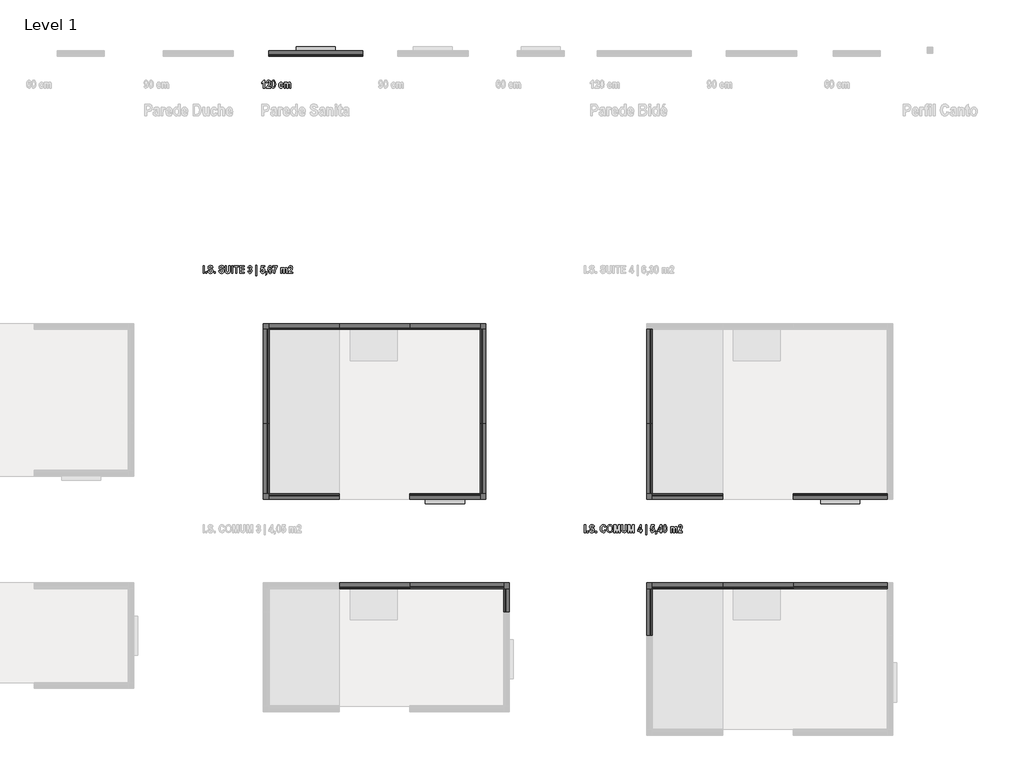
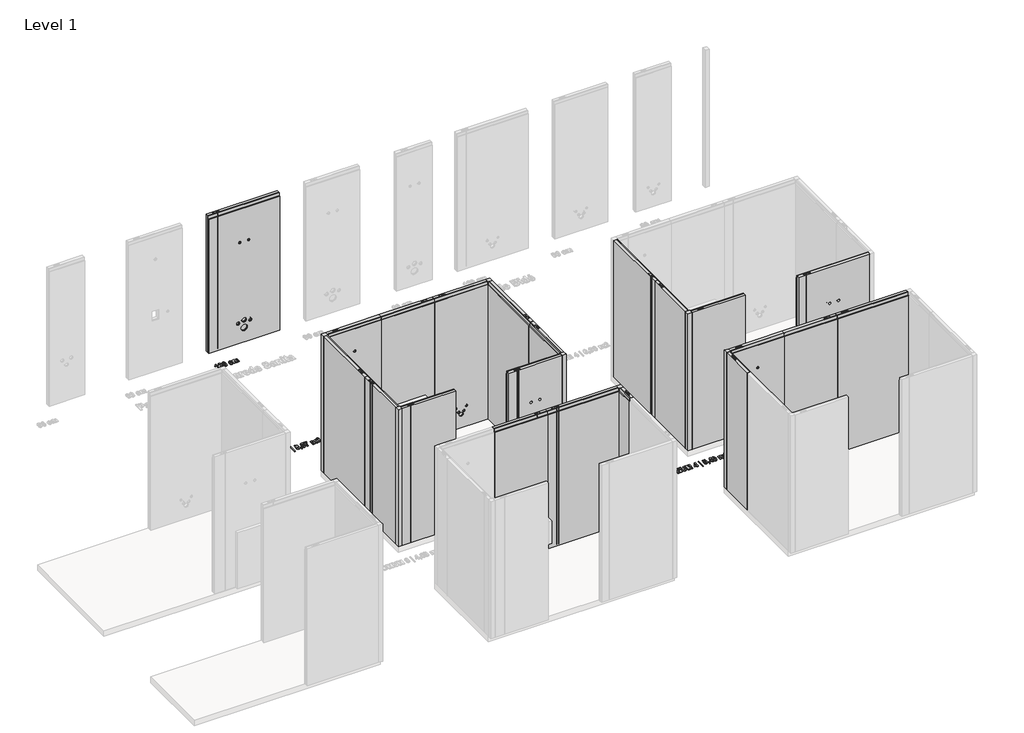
# One storey, part 8 of 10: 31 proxies.
"""IFC4 building model written with IfcOpenShell, lengths in millimetres."""

from ifc_helpers import new_model, si_unit, origin, origin_with_axes, place, context, project, spatial, polyline, outline, extrude, transform, mapped, element, save
from components import generic_models_aefc3c11, generic_models_87fa6935, generic_models_6c692219, generic_models_8d7f3108, generic_models_14bfae6f, generic_models_87e237a0, generic_models_d659e27f, generic_models_43d2ec2c, generic_models_7c24a650, generic_models_bfa109d8, generic_models_1475a357, generic_models_0c33305c, generic_models_edb91717

model = new_model("IFC4")

# Units and contexts
model_context = context("Model", 3, world=origin())
ifc_project = project(units=[si_unit("LENGTHUNIT", "METRE", prefix="MILLI")], contexts=[model_context])

# Site, building, storey
site = spatial("IfcSite", under=ifc_project)
building = spatial("IfcBuilding", under=site)
storey = spatial("IfcBuildingStorey", under=building, Name="Level 1", Elevation=0.0)

# Proxies
placement = place(None, origin())
generic_models_shape = generic_models_aefc3c11(model_context)
element("IfcBuildingElementProxy", 1, Name="ParedeGeral_Blufab : Parede Geral - Largura 90 cm", ObjectType="ParedeGeral_Blufab : Parede Geral - Largura 90 cm", at=placement, inside=storey, context=model_context, shape_type="MappedRepresentation", body=[
    mapped(generic_models_shape, transform((3603.6595429, 3227.3727477, 0.0), x_axis=(0.0, -1.0, 0.0), y_axis=(1.0, 0.0, 0.0), z_axis=(0.0, 0.0, 1.0))),
])
generic_models_2_shape = generic_models_87fa6935(model_context)
element("IfcBuildingElementProxy", 2, Name="ParedeGeral_Blufab : Parede Geral - Largura 120 cm", ObjectType="ParedeGeral_Blufab : Parede Geral - Largura 120 cm", at=placement, inside=storey, context=model_context, shape_type="MappedRepresentation", body=[
    mapped(generic_models_2_shape, transform((903.6595429, 3227.3727477, 0.0), x_axis=(0.0, 1.0, 0.0), y_axis=(-1.0, 0.0, 0.0), z_axis=(0.0, 0.0, 1.0))),
])
element("IfcBuildingElementProxy", 3, Name="ParedeGeral_Blufab : Parede Geral - Largura 120 cm", ObjectType="ParedeGeral_Blufab : Parede Geral - Largura 120 cm", at=placement, inside=storey, context=model_context, shape_type="MappedRepresentation", body=[
    mapped(generic_models_2_shape, transform((5803.6595429, 3227.3727477, 0.0), x_axis=(0.0, 1.0, 0.0), y_axis=(-1.0, 0.0, 0.0), z_axis=(0.0, 0.0, 1.0))),
])
element("IfcBuildingElementProxy", 4, Name="ParedeGeral_Blufab : Parede Geral - Largura 120 cm", ObjectType="ParedeGeral_Blufab : Parede Geral - Largura 120 cm", at=placement, inside=storey, context=model_context, shape_type="MappedRepresentation", body=[
    mapped(generic_models_2_shape, transform((2703.6595429, 1114.1909428, 0.0), x_axis=(1.0, 0.0, 0.0), y_axis=(0.0, 1.0, 0.0), z_axis=(0.0, 0.0, 1.0))),
])
element("IfcBuildingElementProxy", 5, Name="ParedeGeral_Blufab : Parede Geral - Largura 120 cm", ObjectType="ParedeGeral_Blufab : Parede Geral - Largura 120 cm", at=placement, inside=storey, context=model_context, shape_type="MappedRepresentation", body=[
    mapped(generic_models_2_shape, transform((7603.6595429, 1114.1909428, 0.0), x_axis=(1.0, 0.0, 0.0), y_axis=(0.0, 1.0, 0.0), z_axis=(0.0, 0.0, 1.0))),
])
generic_models_3_shape = generic_models_6c692219(model_context)
element("IfcBuildingElementProxy", 6, Name="ParedeSanita_Blufab : Parede Sanita- Largura 120 cm", ObjectType="ParedeSanita_Blufab : Parede Sanita- Largura 120 cm", at=placement, inside=storey, context=model_context, shape_type="MappedRepresentation", body=[
    mapped(generic_models_3_shape, transform((899.1272248, 7918.7563997, 0.0), x_axis=(1.0, 0.0, 0.0), y_axis=(0.0, 1.0, 0.0), z_axis=(0.0, 0.0, 1.0))),
])
generic_models_4_shape = generic_models_8d7f3108(model_context)
element("IfcBuildingElementProxy", 7, Name="ParedeDuche_Blufab : Parede Duche- Largura 90 cm", ObjectType="ParedeDuche_Blufab : Parede Duche- Largura 90 cm", at=placement, inside=storey, context=model_context, shape_type="MappedRepresentation", body=[
    mapped(generic_models_4_shape, transform((903.6595429, 4427.3727477, 0.0), x_axis=(1.0, 0.0, 0.0), y_axis=(0.0, 1.0, 0.0), z_axis=(0.0, 0.0, 1.0))),
])
element("IfcBuildingElementProxy", 8, Name="ParedeDuche_Blufab : Parede Duche- Largura 90 cm", ObjectType="ParedeDuche_Blufab : Parede Duche- Largura 90 cm", at=placement, inside=storey, context=model_context, shape_type="MappedRepresentation", body=[
    mapped(generic_models_4_shape, transform((5803.6595429, 1114.1909428, 0.0), x_axis=(1.0, 0.0, 0.0), y_axis=(0.0, 1.0, 0.0), z_axis=(0.0, 0.0, 1.0))),
])
generic_models_5_shape = generic_models_14bfae6f(model_context)
element("IfcBuildingElementProxy", 9, Name="ParedeBidé_Blufab : Parede Bidé - Largura 90 cm", ObjectType="ParedeBidé_Blufab : Parede Bidé - Largura 90 cm", at=placement, inside=storey, context=model_context, shape_type="MappedRepresentation", body=[
    mapped(generic_models_5_shape, transform((2703.6595429, 4427.3727477, 0.0), x_axis=(1.0, 0.0, 0.0), y_axis=(0.0, 1.0, 0.0), z_axis=(0.0, 0.0, 1.0))),
])
generic_models_6_shape = generic_models_87e237a0(model_context)
element("IfcBuildingElementProxy", 10, Name="PerfilCanto_Blufab : Parede Geral - Largura 60 cm", ObjectType="PerfilCanto_Blufab : Parede Geral - Largura 60 cm", at=placement, inside=storey, context=model_context, shape_type="MappedRepresentation", body=[
    mapped(generic_models_6_shape, transform((830.6595429, 4427.3727477, 0.0), x_axis=(1.0, 0.0, 0.0), y_axis=(0.0, 1.0, 0.0), z_axis=(0.0, 0.0, 1.0))),
])
element("IfcBuildingElementProxy", 11, Name="PerfilCanto_Blufab : Parede Geral - Largura 60 cm", ObjectType="PerfilCanto_Blufab : Parede Geral - Largura 60 cm", at=placement, inside=storey, context=model_context, shape_type="MappedRepresentation", body=[
    mapped(generic_models_6_shape, transform((830.6595429, 2254.3727477, 0.0), x_axis=(1.0, 0.0, 0.0), y_axis=(0.0, 1.0, 0.0), z_axis=(0.0, 0.0, 1.0))),
])
element("IfcBuildingElementProxy", 12, Name="PerfilCanto_Blufab : Parede Geral - Largura 60 cm", ObjectType="PerfilCanto_Blufab : Parede Geral - Largura 60 cm", at=placement, inside=storey, context=model_context, shape_type="MappedRepresentation", body=[
    mapped(generic_models_6_shape, transform((3603.6595429, 4427.3727477, 0.0), x_axis=(1.0, 0.0, 0.0), y_axis=(0.0, 1.0, 0.0), z_axis=(0.0, 0.0, 1.0))),
])
element("IfcBuildingElementProxy", 13, Name="PerfilCanto_Blufab : Parede Geral - Largura 60 cm", ObjectType="PerfilCanto_Blufab : Parede Geral - Largura 60 cm", at=placement, inside=storey, context=model_context, shape_type="MappedRepresentation", body=[
    mapped(generic_models_6_shape, transform((3603.6595429, 2254.3727477, 0.0), x_axis=(1.0, 0.0, 0.0), y_axis=(0.0, 1.0, 0.0), z_axis=(0.0, 0.0, 1.0))),
])
element("IfcBuildingElementProxy", 14, Name="PerfilCanto_Blufab : Parede Geral - Largura 60 cm", ObjectType="PerfilCanto_Blufab : Parede Geral - Largura 60 cm", at=placement, inside=storey, context=model_context, shape_type="MappedRepresentation", body=[
    mapped(generic_models_6_shape, transform((5730.6595429, 2254.3727477, 0.0), x_axis=(1.0, 0.0, 0.0), y_axis=(0.0, 1.0, 0.0), z_axis=(0.0, 0.0, 1.0))),
])
element("IfcBuildingElementProxy", 15, Name="PerfilCanto_Blufab : Parede Geral - Largura 60 cm", ObjectType="PerfilCanto_Blufab : Parede Geral - Largura 60 cm", at=placement, inside=storey, context=model_context, shape_type="MappedRepresentation", body=[
    mapped(generic_models_6_shape, transform((3903.6595429, 1114.1909428, 0.0), x_axis=(1.0, 0.0, 0.0), y_axis=(0.0, 1.0, 0.0), z_axis=(0.0, 0.0, 1.0))),
])
element("IfcBuildingElementProxy", 16, Name="PerfilCanto_Blufab : Parede Geral - Largura 60 cm", ObjectType="PerfilCanto_Blufab : Parede Geral - Largura 60 cm", at=placement, inside=storey, context=model_context, shape_type="MappedRepresentation", body=[
    mapped(generic_models_6_shape, transform((5730.6595429, 1114.1909428, 0.0), x_axis=(1.0, 0.0, 0.0), y_axis=(0.0, 1.0, 0.0), z_axis=(0.0, 0.0, 1.0))),
])
generic_models_7_shape = generic_models_d659e27f(model_context)
element("IfcBuildingElementProxy", 17, Name="ParedeLavatório_Blufab : Parede Lavatório - Largura 90 cm", ObjectType="ParedeLavatório_Blufab : Parede Lavatório - Largura 90 cm", at=placement, inside=storey, context=model_context, shape_type="MappedRepresentation", body=[
    mapped(generic_models_7_shape, transform((2703.6595429, 4427.3727477, 0.0), x_axis=(-1.0, 0.0, 0.0), y_axis=(0.0, -1.0, 0.0), z_axis=(0.0, 0.0, 1.0))),
])
element("IfcBuildingElementProxy", 18, Name="ParedeLavatório_Blufab : Parede Lavatório - Largura 90 cm", ObjectType="ParedeLavatório_Blufab : Parede Lavatório - Largura 90 cm", at=placement, inside=storey, context=model_context, shape_type="MappedRepresentation", body=[
    mapped(generic_models_7_shape, transform((2703.6595429, 1114.1909428, 0.0), x_axis=(-1.0, 0.0, 0.0), y_axis=(0.0, -1.0, 0.0), z_axis=(0.0, 0.0, 1.0))),
])
element("IfcBuildingElementProxy", 19, Name="ParedeLavatório_Blufab : Parede Lavatório - Largura 90 cm", ObjectType="ParedeLavatório_Blufab : Parede Lavatório - Largura 90 cm", at=placement, inside=storey, context=model_context, shape_type="MappedRepresentation", body=[
    mapped(generic_models_7_shape, transform((7603.6595429, 1114.1909428, 0.0), x_axis=(-1.0, 0.0, 0.0), y_axis=(0.0, -1.0, 0.0), z_axis=(0.0, 0.0, 1.0))),
])
generic_models_8_shape = generic_models_43d2ec2c(model_context)
element("IfcBuildingElementProxy", 20, Name="ParedeGeral_Blufab : Parede Geral - Largura 30 cm", ObjectType="ParedeGeral_Blufab : Parede Geral - Largura 30 cm", at=placement, inside=storey, context=model_context, shape_type="MappedRepresentation", body=[
    mapped(generic_models_8_shape, transform((3903.6595429, 1114.1909428, 0.0), x_axis=(0.0, -1.0, 0.0), y_axis=(1.0, 0.0, 0.0), z_axis=(0.0, 0.0, 1.0))),
])
generic_models_9_shape = generic_models_7c24a650(model_context)
element("IfcBuildingElementProxy", 21, Name="ParedeGeral_Blufab : Parede Geral - Largura 90 cm", ObjectType="ParedeGeral_Blufab : Parede Geral - Largura 90 cm", at=placement, inside=storey, context=model_context, shape_type="MappedRepresentation", body=[
    mapped(generic_models_9_shape, transform((903.6595429, 2327.3727477, 0.0), x_axis=(1.0, 0.0, 0.0), y_axis=(0.0, 1.0, 0.0), z_axis=(0.0, 0.0, 1.0))),
])
element("IfcBuildingElementProxy", 22, Name="ParedeGeral_Blufab : Parede Geral - Largura 90 cm", ObjectType="ParedeGeral_Blufab : Parede Geral - Largura 90 cm", at=placement, inside=storey, context=model_context, shape_type="MappedRepresentation", body=[
    mapped(generic_models_9_shape, transform((903.6595429, 3227.3727477, 0.0), x_axis=(0.0, -1.0, 0.0), y_axis=(1.0, 0.0, 0.0), z_axis=(0.0, 0.0, 1.0))),
])
element("IfcBuildingElementProxy", 23, Name="ParedeGeral_Blufab : Parede Geral - Largura 90 cm", ObjectType="ParedeGeral_Blufab : Parede Geral - Largura 90 cm", at=placement, inside=storey, context=model_context, shape_type="MappedRepresentation", body=[
    mapped(generic_models_9_shape, transform((5803.6595429, 2327.3727477, 0.0), x_axis=(1.0, 0.0, 0.0), y_axis=(0.0, 1.0, 0.0), z_axis=(0.0, 0.0, 1.0))),
])
element("IfcBuildingElementProxy", 24, Name="ParedeGeral_Blufab : Parede Geral - Largura 90 cm", ObjectType="ParedeGeral_Blufab : Parede Geral - Largura 90 cm", at=placement, inside=storey, context=model_context, shape_type="MappedRepresentation", body=[
    mapped(generic_models_9_shape, transform((5803.6595429, 3227.3727477, 0.0), x_axis=(0.0, -1.0, 0.0), y_axis=(1.0, 0.0, 0.0), z_axis=(0.0, 0.0, 1.0))),
])
generic_models_10_shape = generic_models_bfa109d8(model_context)
element("IfcBuildingElementProxy", 25, Name="ParedeGeral_Blufab : Parede Geral - Largura 120 cm", ObjectType="ParedeGeral_Blufab : Parede Geral - Largura 120 cm", at=placement, inside=storey, context=model_context, shape_type="MappedRepresentation", body=[
    mapped(generic_models_10_shape, transform((3603.6595429, 3227.3727477, 0.0), x_axis=(0.0, 1.0, 0.0), y_axis=(-1.0, 0.0, 0.0), z_axis=(0.0, 0.0, 1.0))),
])
generic_models_11_shape = generic_models_1475a357(model_context)
element("IfcBuildingElementProxy", 26, Name="ParedeGeral_Blufab : Parede Geral - Largura 60 cm", ObjectType="ParedeGeral_Blufab : Parede Geral - Largura 60 cm", at=placement, inside=storey, context=model_context, shape_type="MappedRepresentation", body=[
    mapped(generic_models_11_shape, transform((5803.6595429, 1114.1909428, 0.0), x_axis=(0.0, -1.0, 0.0), y_axis=(1.0, 0.0, 0.0), z_axis=(0.0, 0.0, 1.0))),
])
generic_models_12_shape = generic_models_0c33305c(model_context)
element("IfcBuildingElementProxy", 27, Name="ParedeSanita_Blufab : Parede Sanita - Largura 90 cm", ObjectType="ParedeSanita_Blufab : Parede Sanita - Largura 90 cm", at=placement, inside=storey, context=model_context, shape_type="MappedRepresentation", body=[
    mapped(generic_models_12_shape, transform((2703.6595429, 2327.3727477, 0.0), x_axis=(1.0, 0.0, 0.0), y_axis=(0.0, 1.0, 0.0), z_axis=(0.0, 0.0, 1.0))),
])
generic_models_13_shape = generic_models_edb91717(model_context)
element("IfcBuildingElementProxy", 28, Name="ParedeSanita_Blufab : Parede Sanita- Largura 120 cm", ObjectType="ParedeSanita_Blufab : Parede Sanita- Largura 120 cm", at=placement, inside=storey, context=model_context, shape_type="MappedRepresentation", body=[
    mapped(generic_models_13_shape, transform((7603.6595429, 2327.3727477, 0.0), x_axis=(1.0, 0.0, 0.0), y_axis=(0.0, 1.0, 0.0), z_axis=(0.0, 0.0, 1.0))),
])
element("IfcBuildingElementProxy", 29, Name="24\" Arial", ObjectType="24\" Arial", at=placement, inside=storey, context=model_context, shape_type="SweptSolid", body=[
    extrude(outline(polyline([(847.3448094, 7512.8748163), (831.0998733, 7512.8748163), (831.0998733, 7585.9770287), (811.60595, 7571.3565863), (811.60595, 7589.226016), (825.0714791, 7598.3891752), (834.754984, 7613.5934201), (847.3448094, 7613.5934201), (847.3448094, 7512.8748163)])), origin_with_axes(), (0.0, 0.0, 1.0), 10.0),
    extrude(outline(polyline([(923.696009, 7529.1197524), (923.696009, 7512.8748163), (868.4632263, 7512.8748163), (873.8443614, 7532.0768385), (891.3076677, 7555.9746624), (903.9482586, 7571.9150059), (907.451073, 7584.1240907), (904.6209005, 7594.0106573), (897.196457, 7597.348484), (889.4420383, 7593.6933734), (886.332656, 7582.7280415), (870.0877199, 7584.3525351), (872.9496208, 7597.446842), (878.6416941, 7606.5243346), (886.9228041, 7611.8261487), (897.551815, 7613.5934201), (908.9264431, 7611.4485809), (917.1091951, 7605.0140632), (922.0493056, 7595.8064842), (923.696009, 7585.3424609), (922.02075, 7573.1714502), (916.855368, 7561.3050321), (905.2173942, 7546.0754045), (895.6100375, 7534.5516529), (892.3483589, 7529.1197524), (923.696009, 7529.1197524)])), origin_with_axes(), (0.0, 0.0, 1.0), 10.0),
    extrude(outline(polyline([(960.2217325, 7613.5934201), (971.0791879, 7610.7473834), (979.6395077, 7602.2092735), (985.1983218, 7586.564004), (987.0512598, 7562.3964887), (985.1983218, 7538.2670475), (979.6395077, 7522.6344693), (971.0918792, 7514.0963594), (960.272498, 7511.2503227), (949.4150426, 7514.0709767), (940.8547228, 7522.5329385), (935.2959087, 7538.1908994), (933.4429707, 7562.5995504), (935.2959087, 7586.6147694), (940.8547228, 7602.2092735), (949.4023513, 7610.7473834), (960.2217325, 7613.5934201)]), holes=[polyline([(960.2471152, 7597.348484), (952.5561533, 7591.256633), (949.6879068, 7562.3964887), (952.5561533, 7533.5617271), (960.2471152, 7527.4952588), (967.9761512, 7533.5871099), (970.8063237, 7562.3964887), (967.9761512, 7591.256633), (960.2471152, 7597.348484)])]), origin_with_axes(), (0.0, 0.0, 1.0), 10.0),
    extrude(outline(polyline([(1084.5208763, 7564.8586118), (1068.2759402, 7561.6096246), (1064.8683111, 7568.9198458), (1057.9451762, 7571.3565863), (1048.9470046, 7566.5719449), (1045.5330297, 7550.4158483), (1048.8327824, 7532.6733322), (1057.6659664, 7527.4952588), (1064.4685333, 7530.3635053), (1068.2759402, 7540.4912077), (1084.5208763, 7537.2422205), (1081.067241, 7525.8707652), (1075.4021368, 7517.7482972), (1067.5255638, 7512.8748163), (1057.4375219, 7511.2503227), (1044.9714372, 7514.0360754), (1036.2048828, 7522.3933336), (1031.0172909, 7534.6722208), (1029.2880936, 7549.2228608), (1031.2742909, 7565.7596981), (1037.2328827, 7577.8037953), (1046.415079, 7585.1520906), (1058.0720898, 7587.6015223), (1067.5398416, 7586.2403744), (1075.0785072, 7582.1569305), (1084.5208763, 7564.8586118)])), origin_with_axes(), (0.0, 0.0, 1.0), 10.0),
    extrude(outline(polyline([(1095.8923316, 7585.9770287), (1110.5127741, 7585.9770287), (1110.5127741, 7576.0777708), (1119.0667482, 7584.7459672), (1129.1183024, 7587.6015223), (1139.0556344, 7584.7332758), (1145.9470409, 7576.0523881), (1154.4502496, 7584.7332758), (1164.1210632, 7587.6015223), (1174.6168148, 7584.6825104), (1181.317851, 7576.3189066), (1183.6149865, 7559.6043903), (1183.6149865, 7512.8748163), (1167.3700504, 7512.8748163), (1167.3700504, 7553.6394528), (1165.504421, 7567.8283892), (1159.2475823, 7571.3565863), (1150.9982007, 7566.4196487), (1147.8761271, 7547.1160957), (1147.8761271, 7512.8748163), (1131.631191, 7512.8748163), (1131.631191, 7551.9641938), (1130.3874381, 7566.9146115), (1123.7117846, 7571.3565863), (1117.49302, 7569.0721421), (1113.393712, 7562.3964887), (1112.1372677, 7547.5222191), (1112.1372677, 7512.8748163), (1095.8923316, 7512.8748163), (1095.8923316, 7585.9770287)])), origin_with_axes(), (0.0, 0.0, 1.0), 10.0),
])
element("IfcBuildingElementProxy", 30, Name="24\" Arial", ObjectType="24\" Arial", at=placement, inside=storey, context=model_context, shape_type="SweptSolid", body=[
    extrude(outline(polyline([(59.9814564, 5144.3634386), (59.9814564, 5245.0820423), (76.2263925, 5245.0820423), (76.2263925, 5144.3634386), (59.9814564, 5144.3634386)])), origin_with_axes(), (0.0, 0.0, 1.0), 10.0),
    extrude(outline(polyline([(92.4713286, 5144.3634386), (92.4713286, 5163.8573619), (108.7162647, 5163.8573619), (108.7162647, 5144.3634386), (92.4713286, 5144.3634386)])), origin_with_axes(), (0.0, 0.0, 1.0), 10.0),
    extrude(outline(polyline([(121.7122136, 5176.8533108), (137.9571496, 5178.4778044), (143.8142106, 5165.0757321), (155.9027275, 5160.6083747), (167.7564543, 5164.3650161), (172.0715154, 5173.655089), (170.5485527, 5179.1885203), (165.9035163, 5182.9451618), (151.0292467, 5188.1486179), (135.6346314, 5195.2557774), (127.85483, 5205.2058008), (124.9612008, 5218.4809595), (128.7051509, 5233.3425377), (139.0359149, 5243.3306352), (155.3189251, 5246.7065359), (168.2704542, 5244.812351), (178.0364529, 5239.1297962), (184.2869459, 5229.92539), (186.6919579, 5217.465651), (170.4470218, 5215.8411574), (165.7004546, 5225.9561684), (155.2681597, 5228.8371062), (144.8612475, 5226.0957733), (141.2061369, 5219.2932063), (144.0743834, 5212.5667874), (158.6440604, 5206.1449611), (176.6657864, 5198.2509375), (185.3212914, 5188.1105438), (188.3164515, 5173.0205211), (186.3143901, 5161.2239054), (180.3082057, 5151.4705981), (170.0377256, 5144.9218583), (155.242777, 5142.738945), (141.8486368, 5144.8710928), (131.7954962, 5151.2675364), (125.0833551, 5161.9282757), (121.7122136, 5176.8533108)])), origin_with_axes(), (0.0, 0.0, 1.0), 10.0),
    extrude(outline(polyline([(201.3124004, 5144.3634386), (201.3124004, 5163.8573619), (217.5573365, 5163.8573619), (217.5573365, 5144.3634386), (201.3124004, 5144.3634386)])), origin_with_axes(), (0.0, 0.0, 1.0), 10.0),
    extrude(outline(polyline([(263.0431575, 5176.8533108), (279.2880936, 5178.4778044), (285.1451546, 5165.0757321), (297.2336715, 5160.6083747), (309.0873983, 5164.3650161), (313.4024594, 5173.655089), (311.8794967, 5179.1885203), (307.2344602, 5182.9451618), (292.3601906, 5188.1486179), (276.9655754, 5195.2557774), (269.185774, 5205.2058008), (266.2921448, 5218.4809595), (270.0360949, 5233.3425377), (280.3668589, 5243.3306352), (296.6498691, 5246.7065359), (309.6013982, 5244.812351), (319.3673969, 5239.1297962), (325.6178899, 5229.92539), (328.0229019, 5217.465651), (311.7779658, 5215.8411574), (307.0313985, 5225.9561684), (296.5991036, 5228.8371062), (286.1921915, 5226.0957733), (282.5370808, 5219.2932063), (285.4053274, 5212.5667874), (299.9750044, 5206.1449611), (317.9967304, 5198.2509375), (326.6522354, 5188.1105438), (329.6473955, 5173.0205211), (327.645334, 5161.2239054), (321.6391497, 5151.4705981), (311.3686696, 5144.9218583), (296.5737209, 5142.738945), (283.1795808, 5144.8710928), (273.1264401, 5151.2675364), (266.4142991, 5161.9282757), (263.0431575, 5176.8533108)])), origin_with_axes(), (0.0, 0.0, 1.0), 10.0),
    extrude(outline(polyline([(342.6433444, 5245.0820423), (358.8882805, 5245.0820423), (358.8882805, 5190.9153336), (359.4974656, 5174.4673358), (364.7516871, 5164.2254112), (375.6916362, 5160.6083747), (385.0705485, 5163.1720286), (390.0455602, 5170.2664968), (391.3781526, 5189.7477288), (391.3781526, 5245.0820423), (407.6230887, 5245.0820423), (407.6230887, 5192.2352346), (405.4909409, 5162.9562756), (402.0198549, 5154.7893878), (395.8708928, 5148.3358331), (387.1900051, 5144.138167), (376.1231423, 5142.738945), (356.235787, 5147.37129), (345.8669489, 5160.4180043), (342.6433444, 5191.3976051), (342.6433444, 5245.0820423)])), origin_with_axes(), (0.0, 0.0, 1.0), 10.0),
    extrude(outline(polyline([(425.4925184, 5144.3634386), (425.4925184, 5245.0820423), (441.7374545, 5245.0820423), (441.7374545, 5144.3634386), (425.4925184, 5144.3634386)])), origin_with_axes(), (0.0, 0.0, 1.0), 10.0),
    extrude(outline(polyline([(477.4763139, 5144.3634386), (477.4763139, 5228.8371062), (453.1089098, 5228.8371062), (453.1089098, 5245.0820423), (518.0886541, 5245.0820423), (518.0886541, 5228.8371062), (493.72125, 5228.8371062), (493.72125, 5144.3634386), (477.4763139, 5144.3634386)])), origin_with_axes(), (0.0, 0.0, 1.0), 10.0),
    extrude(outline(polyline([(527.8356158, 5144.3634386), (527.8356158, 5245.0820423), (587.9418793, 5245.0820423), (587.9418793, 5228.8371062), (544.0805519, 5228.8371062), (544.0805519, 5204.4697021), (584.6928921, 5204.4697021), (584.6928921, 5188.224766), (544.0805519, 5188.224766), (544.0805519, 5160.6083747), (589.5663729, 5160.6083747), (589.5663729, 5144.3634386), (527.8356158, 5144.3634386)])), origin_with_axes(), (0.0, 0.0, 1.0), 10.0),
    extrude(outline(polyline([(633.4277004, 5171.9798299), (649.6726365, 5173.6043235), (653.2262162, 5162.7405225), (660.2572276, 5158.9838811), (667.7324365, 5163.4385471), (670.7910534, 5175.7872368), (667.6309056, 5187.298297), (659.9780178, 5191.4737532), (652.9216237, 5190.0269386), (654.6222654, 5207.7186893), (664.1153999, 5210.6123186), (667.5420662, 5219.0901446), (664.9911035, 5226.2480696), (658.455055, 5228.8371062), (651.5255745, 5225.550045), (648.0481428, 5215.8411574), (633.4277004, 5217.465651), (636.8004283, 5229.9761555), (642.3497239, 5238.5206111), (649.8534883, 5243.4416845), (659.0896228, 5245.0820423), (669.2680906, 5243.1434377), (677.1113488, 5237.3276236), (682.1180889, 5229.157563), (683.7870022, 5220.1562185), (680.7410767, 5208.6959238), (671.6033002, 5199.7485176), (682.7336197, 5191.3976051), (687.0359895, 5175.2795826), (685.0307552, 5162.4073744), (679.0150523, 5151.965561), (670.2326337, 5145.045599), (659.9272524, 5142.738945), (650.135871, 5144.6997595), (641.9816745, 5150.5822032), (636.175379, 5159.853239), (633.4277004, 5171.9798299)])), origin_with_axes(), (0.0, 0.0, 1.0), 10.0),
    extrude(outline(polyline([(734.1463041, 5115.1225536), (734.1463041, 5246.7065359), (747.142253, 5246.7065359), (747.142253, 5115.1225536), (734.1463041, 5115.1225536)])), origin_with_axes(), (0.0, 0.0, 1.0), 10.0),
    extrude(outline(polyline([(794.2525676, 5171.9798299), (810.4975037, 5173.6043235), (814.4318242, 5162.8928188), (821.7420454, 5158.9838811), (829.8518221, 5163.9208187), (833.2404143, 5179.0616068), (829.775674, 5193.352074), (820.9551813, 5197.9717277), (814.495281, 5196.3472341), (808.7207139, 5191.4737532), (795.8770613, 5193.0982468), (803.9995293, 5243.4575487), (846.2363631, 5243.4575487), (846.2363631, 5227.2126126), (817.8331077, 5227.2126126), (814.6602686, 5207.6679239), (825.1687116, 5214.2166638), (833.8813278, 5212.2241208), (841.1852033, 5206.246492), (847.4103136, 5194.475259), (849.4853504, 5179.4677302), (847.6641407, 5166.3099665), (842.2005118, 5154.2500051), (833.3546365, 5145.61671), (821.3866875, 5142.738945), (811.3446518, 5144.6394756), (803.098443, 5150.3410674), (797.2128265, 5159.5518193), (794.2525676, 5171.9798299)])), origin_with_axes(), (0.0, 0.0, 1.0), 10.0),
    extrude(outline(polyline([(860.8568056, 5163.8573619), (877.1017417, 5163.8573619), (877.1017417, 5149.8968699), (874.2081125, 5132.2558846), (862.3036202, 5121.6205281), (859.232312, 5129.5399344), (866.5806073, 5134.83223), (868.9792737, 5144.3634386), (860.8568056, 5144.3634386), (860.8568056, 5163.8573619)])), origin_with_axes(), (0.0, 0.0, 1.0), 10.0),
    extrude(outline(polyline([(942.0814861, 5219.0901446), (925.83655, 5217.465651), (923.1777108, 5225.9942424), (917.2825758, 5228.8371062), (909.1727991, 5223.3036749), (905.0988737, 5200.8653569), (911.6729963, 5207.2237264), (919.6685508, 5209.3431829), (928.7174879, 5207.1031585), (936.522672, 5200.3830854), (941.9101527, 5189.9444448), (943.7059797, 5176.5487182), (941.8530416, 5162.4391028), (936.2942276, 5151.7371166), (928.0004262, 5144.9884879), (917.9425263, 5142.738945), (906.9422932, 5145.6706483), (898.0044056, 5154.4657582), (892.0743693, 5170.0443981), (890.0976906, 5193.3266913), (892.1473446, 5217.0246263), (898.2963068, 5232.9871798), (907.6625277, 5242.0583267), (919.3639582, 5245.0820423), (927.530846, 5243.4702401), (934.314376, 5238.6348333), (939.302079, 5230.5250566), (942.0814861, 5219.0901446)]), holes=[polyline([(906.3426267, 5177.1579033), (909.7566015, 5163.6543002), (917.5617857, 5158.9838811), (924.6435625, 5162.8547447), (927.4610436, 5175.5587924), (924.4024267, 5188.9100993), (916.825687, 5193.0982468), (909.4012435, 5189.1004696), (906.3426267, 5177.1579033)])]), origin_with_axes(), (0.0, 0.0, 1.0), 10.0),
    extrude(outline(polyline([(953.4529413, 5227.2126126), (953.4529413, 5243.4575487), (1007.0612304, 5243.4575487), (1007.0612304, 5229.4716741), (993.6591581, 5206.6906895), (983.1634065, 5175.0384468), (979.4448391, 5144.3634386), (963.199903, 5144.3634386), (970.4720501, 5187.9201735), (988.5826156, 5227.2126126), (953.4529413, 5227.2126126)])), origin_with_axes(), (0.0, 0.0, 1.0), 10.0),
    extrude(outline(polyline([(1052.5470515, 5217.465651), (1067.1674939, 5217.465651), (1067.1674939, 5207.566393), (1075.7214681, 5216.2345894), (1085.7730223, 5219.0901446), (1095.7103543, 5216.2218981), (1102.6017608, 5207.5410103), (1111.1049695, 5216.2218981), (1120.775783, 5219.0901446), (1131.2715347, 5216.1711326), (1137.9725709, 5207.8075288), (1140.2697063, 5191.0930125), (1140.2697063, 5144.3634386), (1124.0247703, 5144.3634386), (1124.0247703, 5185.1280751), (1122.1591409, 5199.3170114), (1115.9023022, 5202.8452085), (1107.6529206, 5197.9082709), (1104.530847, 5178.6047179), (1104.530847, 5144.3634386), (1088.2859109, 5144.3634386), (1088.2859109, 5183.452816), (1087.0421579, 5198.4032338), (1080.3665045, 5202.8452085), (1074.1477399, 5200.5607644), (1070.0484318, 5193.8851109), (1068.7919876, 5179.0108413), (1068.7919876, 5144.3634386), (1052.5470515, 5144.3634386), (1052.5470515, 5217.465651)])), origin_with_axes(), (0.0, 0.0, 1.0), 10.0),
    extrude(outline(polyline([(1205.2494507, 5160.6083747), (1205.2494507, 5144.3634386), (1150.016668, 5144.3634386), (1155.3978031, 5163.5654607), (1172.8611094, 5187.4632846), (1185.5017003, 5203.4036282), (1189.0045146, 5215.612713), (1186.1743422, 5225.4992795), (1178.7498987, 5228.8371062), (1170.99548, 5225.1819956), (1167.8860977, 5214.2166638), (1151.6411616, 5215.8411574), (1154.5030625, 5228.9354643), (1160.1951358, 5238.0129569), (1168.4762458, 5243.314771), (1179.1052567, 5245.0820423), (1190.4798848, 5242.9372031), (1198.6626368, 5236.5026855), (1203.6027472, 5227.2951064), (1205.2494507, 5216.8310832), (1203.5741917, 5204.6600725), (1198.4088096, 5192.7936543), (1186.7708359, 5177.5640267), (1177.1634792, 5166.0402752), (1173.9018006, 5160.6083747), (1205.2494507, 5160.6083747)])), origin_with_axes(), (0.0, 0.0, 1.0), 10.0),
])
element("IfcBuildingElementProxy", 31, Name="24\" Arial", ObjectType="24\" Arial", at=placement, inside=storey, context=model_context, shape_type="SweptSolid", body=[
    extrude(outline(polyline([(4934.9814564, 1831.1816336), (4934.9814564, 1931.9002374), (4951.2263925, 1931.9002374), (4951.2263925, 1831.1816336), (4934.9814564, 1831.1816336)])), origin_with_axes(), (0.0, 0.0, 1.0), 10.0),
    extrude(outline(polyline([(4967.4713286, 1831.1816336), (4967.4713286, 1850.6755569), (4983.7162647, 1850.6755569), (4983.7162647, 1831.1816336), (4967.4713286, 1831.1816336)])), origin_with_axes(), (0.0, 0.0, 1.0), 10.0),
    extrude(outline(polyline([(4996.7122136, 1863.6715058), (5012.9571496, 1865.2959994), (5018.8142106, 1851.8939271), (5030.9027275, 1847.4265697), (5042.7564543, 1851.1832112), (5047.0715154, 1860.473284), (5045.5485527, 1866.0067154), (5040.9035163, 1869.7633568), (5026.0292467, 1874.9668129), (5010.6346314, 1882.0739725), (5002.85483, 1892.0239958), (4999.9612008, 1905.2991545), (5003.7051509, 1920.1607328), (5014.0359149, 1930.1488302), (5030.3189251, 1933.524731), (5043.2704542, 1931.630546), (5053.0364529, 1925.9479913), (5059.2869459, 1916.7435851), (5061.6919579, 1904.283846), (5045.4470218, 1902.6593524), (5040.7004546, 1912.7743634), (5030.2681597, 1915.6553013), (5019.8612475, 1912.9139683), (5016.2061369, 1906.1114013), (5019.0743834, 1899.3849825), (5033.6440604, 1892.9631562), (5051.6657864, 1885.0691325), (5060.3212914, 1874.9287388), (5063.3164515, 1859.8387162), (5061.3143901, 1848.0421005), (5055.3082057, 1838.2887932), (5045.0377256, 1831.7400533), (5030.242777, 1829.55714), (5016.8486368, 1831.6892879), (5006.7954962, 1838.0857314), (5000.0833551, 1848.7464708), (4996.7122136, 1863.6715058)])), origin_with_axes(), (0.0, 0.0, 1.0), 10.0),
    extrude(outline(polyline([(5076.3124004, 1831.1816336), (5076.3124004, 1850.6755569), (5092.5573365, 1850.6755569), (5092.5573365, 1831.1816336), (5076.3124004, 1831.1816336)])), origin_with_axes(), (0.0, 0.0, 1.0), 10.0),
    extrude(outline(polyline([(5193.2759402, 1868.5449866), (5209.5208763, 1862.0470122), (5204.5204819, 1847.420224), (5197.0325817, 1837.3496328), (5187.2919657, 1831.5052632), (5175.5334241, 1829.55714), (5161.0081668, 1832.6601766), (5149.5161436, 1841.9692865), (5140.9114041, 1858.8107163), (5138.0431575, 1880.6525405), (5140.9367868, 1903.5731301), (5149.6176745, 1920.9095228), (5161.4015988, 1930.3709289), (5176.6502635, 1933.524731), (5189.3543111, 1931.1704844), (5199.7992974, 1924.1077446), (5209.5208763, 1904.283846), (5193.2759402, 1899.4103652), (5186.8287312, 1911.4671537), (5175.4826587, 1915.6553013), (5166.9794499, 1913.6976596), (5160.2022657, 1907.8247344), (5155.7666366, 1897.4400321), (5154.2880936, 1881.9470589), (5155.7095255, 1865.9400857), (5159.9738213, 1855.3332847), (5166.5098698, 1849.4032484), (5174.74656, 1847.4265697), (5186.2703115, 1852.4904209), (5193.2759402, 1868.5449866)])), origin_with_axes(), (0.0, 0.0, 1.0), 10.0),
    extrude(outline(polyline([(5220.8923316, 1880.9317504), (5226.1846272, 1910.515302), (5240.0055142, 1927.826312), (5249.4415376, 1932.1001262), (5260.692425, 1933.524731), (5276.6771883, 1930.1456574), (5289.400273, 1920.0084365), (5297.7194571, 1903.633414), (5300.4925184, 1881.5409355), (5297.5544694, 1859.0645434), (5288.7403225, 1842.0962), (5276.5946945, 1832.691905), (5260.7685731, 1829.55714), (5244.8282296, 1832.6601766), (5232.6445275, 1841.9692865), (5223.8303806, 1858.8043706), (5220.8923316, 1880.9317504)]), holes=[polyline([(5237.1372677, 1881.6170836), (5238.8379094, 1866.6508017), (5243.9398347, 1855.9678525), (5251.5546485, 1849.5618904), (5260.7939559, 1847.4265697), (5270.0554731, 1849.5460262), (5277.5846203, 1855.9043957), (5282.5818418, 1866.6539745), (5284.2475823, 1881.9470589), (5282.6262616, 1896.9323779), (5277.7622993, 1907.418611), (5270.2775719, 1913.5961287), (5260.7939559, 1915.6553013), (5251.2849571, 1913.5770917), (5243.7240816, 1907.3424629), (5238.7839712, 1896.7546989), (5237.1372677, 1881.6170836)])]), origin_with_axes(), (0.0, 0.0, 1.0), 10.0),
    extrude(outline(polyline([(5313.4884673, 1831.1816336), (5313.4884673, 1931.9002374), (5340.3433773, 1931.9002374), (5353.2885607, 1861.5647406), (5366.5891021, 1931.9002374), (5393.0886541, 1931.9002374), (5393.0886541, 1831.1816336), (5376.843718, 1831.1816336), (5376.843718, 1912.1017215), (5361.4617942, 1831.1816336), (5344.6584384, 1831.1816336), (5329.7334034, 1912.1017215), (5329.7334034, 1831.1816336), (5313.4884673, 1831.1816336)])), origin_with_axes(), (0.0, 0.0, 1.0), 10.0),
    extrude(outline(polyline([(5409.3335902, 1931.9002374), (5425.5785263, 1931.9002374), (5425.5785263, 1877.7335286), (5426.1877114, 1861.2855308), (5431.4419329, 1851.0436063), (5442.3818821, 1847.4265697), (5451.7607944, 1849.9902237), (5456.7358061, 1857.0846919), (5458.0683985, 1876.5659238), (5458.0683985, 1931.9002374), (5474.3133346, 1931.9002374), (5474.3133346, 1879.0534296), (5472.1811867, 1849.7744706), (5468.7101008, 1841.6075828), (5462.5611386, 1835.1540281), (5453.8802509, 1830.956362), (5442.8133882, 1829.55714), (5422.9260328, 1834.1894851), (5412.5571947, 1847.2361994), (5409.3335902, 1878.2158001), (5409.3335902, 1931.9002374)])), origin_with_axes(), (0.0, 0.0, 1.0), 10.0),
    extrude(outline(polyline([(5492.1827643, 1831.1816336), (5492.1827643, 1931.9002374), (5519.0376742, 1931.9002374), (5531.9828577, 1861.5647406), (5545.2833991, 1931.9002374), (5571.7829511, 1931.9002374), (5571.7829511, 1831.1816336), (5555.538015, 1831.1816336), (5555.538015, 1912.1017215), (5540.1560912, 1831.1816336), (5523.3527354, 1831.1816336), (5508.4277004, 1912.1017215), (5508.4277004, 1831.1816336), (5492.1827643, 1831.1816336)])), origin_with_axes(), (0.0, 0.0, 1.0), 10.0),
    extrude(outline(polyline([(5648.1341507, 1831.1816336), (5648.1341507, 1850.6755569), (5615.6442786, 1850.6755569), (5615.6442786, 1866.8443449), (5650.2409159, 1931.9002374), (5664.3790868, 1931.9002374), (5664.3790868, 1866.920493), (5674.1260485, 1866.920493), (5674.1260485, 1850.6755569), (5664.3790868, 1850.6755569), (5664.3790868, 1831.1816336), (5648.1341507, 1831.1816336)]), holes=[polyline([(5648.1341507, 1866.920493), (5648.1341507, 1901.9232537), (5629.9093631, 1866.920493), (5648.1341507, 1866.920493)])]), origin_with_axes(), (0.0, 0.0, 1.0), 10.0),
    extrude(outline(polyline([(5717.9873759, 1801.9407487), (5717.9873759, 1933.524731), (5730.9833248, 1933.524731), (5730.9833248, 1801.9407487), (5717.9873759, 1801.9407487)])), origin_with_axes(), (0.0, 0.0, 1.0), 10.0),
    extrude(outline(polyline([(5778.0936394, 1858.798025), (5794.3385755, 1860.4225186), (5798.272896, 1849.7110138), (5805.5831172, 1845.8020761), (5813.6928939, 1850.7390137), (5817.0814861, 1865.8798018), (5813.6167458, 1880.170269), (5804.7962531, 1884.7899227), (5798.3363528, 1883.1654291), (5792.5617857, 1878.2919483), (5779.7181331, 1879.9164419), (5787.8406011, 1930.2757438), (5830.0774349, 1930.2757438), (5830.0774349, 1914.0308077), (5801.6741795, 1914.0308077), (5798.5013404, 1894.4861189), (5809.0097834, 1901.0348588), (5817.7223996, 1899.0423159), (5825.0262751, 1893.064687), (5831.2513854, 1881.293454), (5833.3264221, 1866.2859252), (5831.5052125, 1853.1281615), (5826.0415836, 1841.0682002), (5817.1957083, 1832.434905), (5805.2277593, 1829.55714), (5795.1857236, 1831.4576706), (5786.9395148, 1837.1592624), (5781.0538983, 1846.3700143), (5778.0936394, 1858.798025)])), origin_with_axes(), (0.0, 0.0, 1.0), 10.0),
    extrude(outline(polyline([(5844.6978774, 1850.6755569), (5860.9428135, 1850.6755569), (5860.9428135, 1836.715065), (5858.0491843, 1819.0740797), (5846.144692, 1808.4387231), (5843.0733838, 1816.3581294), (5850.4216791, 1821.650425), (5852.8203455, 1831.1816336), (5844.6978774, 1831.1816336), (5844.6978774, 1850.6755569)])), origin_with_axes(), (0.0, 0.0, 1.0), 10.0),
    extrude(outline(polyline([(5904.8041409, 1831.1816336), (5904.8041409, 1850.6755569), (5872.3142688, 1850.6755569), (5872.3142688, 1866.8443449), (5906.9109061, 1931.9002374), (5921.049077, 1931.9002374), (5921.049077, 1866.920493), (5930.7960387, 1866.920493), (5930.7960387, 1850.6755569), (5921.049077, 1850.6755569), (5921.049077, 1831.1816336), (5904.8041409, 1831.1816336)]), holes=[polyline([(5904.8041409, 1866.920493), (5904.8041409, 1901.9232537), (5886.5793533, 1866.920493), (5904.8041409, 1866.920493)])]), origin_with_axes(), (0.0, 0.0, 1.0), 10.0),
    extrude(outline(polyline([(5964.072775, 1931.9002374), (5974.9302303, 1929.0542007), (5983.4905501, 1920.5160907), (5989.0493642, 1904.8708212), (5990.9023022, 1880.703306), (5989.0493642, 1856.5738648), (5983.4905501, 1840.9412866), (5974.9429216, 1832.4031767), (5964.1235404, 1829.55714), (5953.266085, 1832.3777939), (5944.7057652, 1840.8397558), (5939.1469511, 1856.4977166), (5937.2940131, 1880.9063677), (5939.1469511, 1904.9215867), (5944.7057652, 1920.5160907), (5953.2533937, 1929.0542007), (5964.072775, 1931.9002374)]), holes=[polyline([(5964.0981577, 1915.6553013), (5956.4071957, 1909.5634502), (5953.5389492, 1880.703306), (5956.4071957, 1851.8685444), (5964.0981577, 1845.8020761), (5971.8271937, 1851.8939271), (5974.6573661, 1880.703306), (5971.8271937, 1909.5634502), (5964.0981577, 1915.6553013)])]), origin_with_axes(), (0.0, 0.0, 1.0), 10.0),
    extrude(outline(polyline([(6036.3881233, 1904.283846), (6051.0085657, 1904.283846), (6051.0085657, 1894.3845881), (6059.5625399, 1903.0527844), (6069.6140941, 1905.9083396), (6079.5514261, 1903.0400931), (6086.4428326, 1894.3592054), (6094.9460413, 1903.0400931), (6104.6168548, 1905.9083396), (6115.1126065, 1902.9893277), (6121.8136427, 1894.6257239), (6124.1107781, 1877.9112076), (6124.1107781, 1831.1816336), (6107.8658421, 1831.1816336), (6107.8658421, 1871.9462701), (6106.0002127, 1886.1352065), (6099.743374, 1889.6634035), (6091.4939924, 1884.7264659), (6088.3719187, 1865.422913), (6088.3719187, 1831.1816336), (6072.1269827, 1831.1816336), (6072.1269827, 1870.2710111), (6070.8832297, 1885.2214288), (6064.2075763, 1889.6634035), (6057.9888117, 1887.3789594), (6053.8895036, 1880.703306), (6052.6330594, 1865.8290364), (6052.6330594, 1831.1816336), (6036.3881233, 1831.1816336), (6036.3881233, 1904.283846)])), origin_with_axes(), (0.0, 0.0, 1.0), 10.0),
    extrude(outline(polyline([(6189.0905225, 1847.4265697), (6189.0905225, 1831.1816336), (6133.8577398, 1831.1816336), (6139.2388749, 1850.3836557), (6156.7021812, 1874.2814797), (6169.3427721, 1890.2218232), (6172.8455864, 1902.430908), (6170.015414, 1912.3174746), (6162.5909705, 1915.6553013), (6154.8365518, 1912.0001907), (6151.7271695, 1901.0348588), (6135.4822334, 1902.6593524), (6138.3441343, 1915.7536593), (6144.0362076, 1924.8311519), (6152.3173176, 1930.132966), (6162.9463285, 1931.9002374), (6174.3209566, 1929.7553981), (6182.5037086, 1923.3208805), (6187.443819, 1914.1133015), (6189.0905225, 1903.6492782), (6187.4152635, 1891.4782675), (6182.2498814, 1879.6118493), (6170.6119077, 1864.3822217), (6161.004551, 1852.8584702), (6157.7428724, 1847.4265697), (6189.0905225, 1847.4265697)])), origin_with_axes(), (0.0, 0.0, 1.0), 10.0),
])

save(model, "model.ifc")
